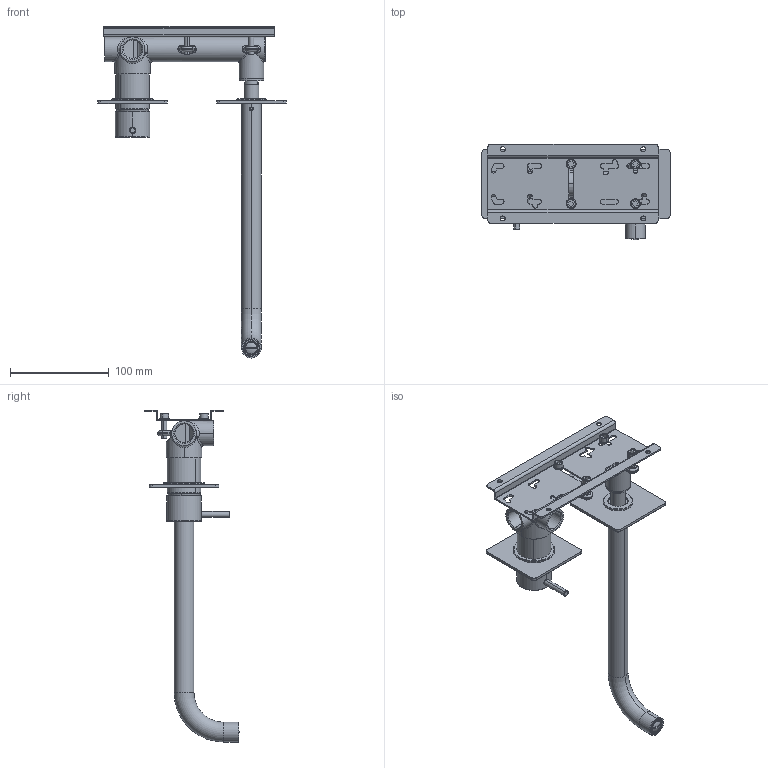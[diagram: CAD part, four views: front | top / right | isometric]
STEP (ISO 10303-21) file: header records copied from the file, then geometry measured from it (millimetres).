
FILE_DESCRIPTION (( 'STEP AP203' ), '1' );
FILE_NAME ('MMN85.STEP', '2023-11-28T07:36:49', ( '' ), ( '' ), 'SwSTEP 2.0', 'SolidWorks 2021', '' );
FILE_SCHEMA (( 'CONFIG_CONTROL_DESIGN' ));
Length unit declared in the file: millimetre
Products named in the file (25): C11.14.0009; C24.0120.00.1; C11.12.0020; C21.1428.00.0; C24.1560.00.0; C24.2663.00; C12.00.0051; MMN85; C11.10.0019; C24.1955.00.1; C47.00.0023.01; C12.00.0032; C18.23.0004; C24.2658.00; C25.2348.00.1; C12.00.0020; C11.14.0003; C24.2659.00; C24.1932.00.0; C12.00.0008; ING84; C13.00.0043; C24.2580.00.0; EU0705_0; C10.00.0020
Assembly tree (32 placements, depth 3):
  MMN85
    C24.1932.00.0
    C13.00.0043
    C11.14.0003
    C12.00.0032
    C12.00.0020
    EU0705_0
    C11.14.0009
    C47.00.0023.01
    ING84
      C21.1428.00.0
      C18.23.0004
      C24.1955.00.1
      C12.00.0008
      C12.00.0051  x3
      C10.00.0020
      C11.10.0019  x4
      C11.12.0020  x4
      C25.2348.00.1
    C24.1560.00.0
    C24.0120.00.1
    C24.2580.00.0
    C24.2663.00
    C24.2658.00
    C24.2659.00
Bounding box: 190 x 95.99 x 335.5 mm (x, y, z)
Volume: 198968.2 mm3; surface area: 166853.7 mm2
Topology: 33 solids, 33 shells, 1131 faces, 2665 edges, 1657 vertices
Faces by surface type: cylinder 444, plane 412, cone 117, torus 112, bspline 46
Entity records: 37426 total; most frequent: CARTESIAN_POINT 10463, DIRECTION 5286, ORIENTED_EDGE 4868, EDGE_CURVE 2434, AXIS2_PLACEMENT_3D 2084, VERTEX_POINT 1523, EDGE_LOOP 1163, VECTOR 1118
